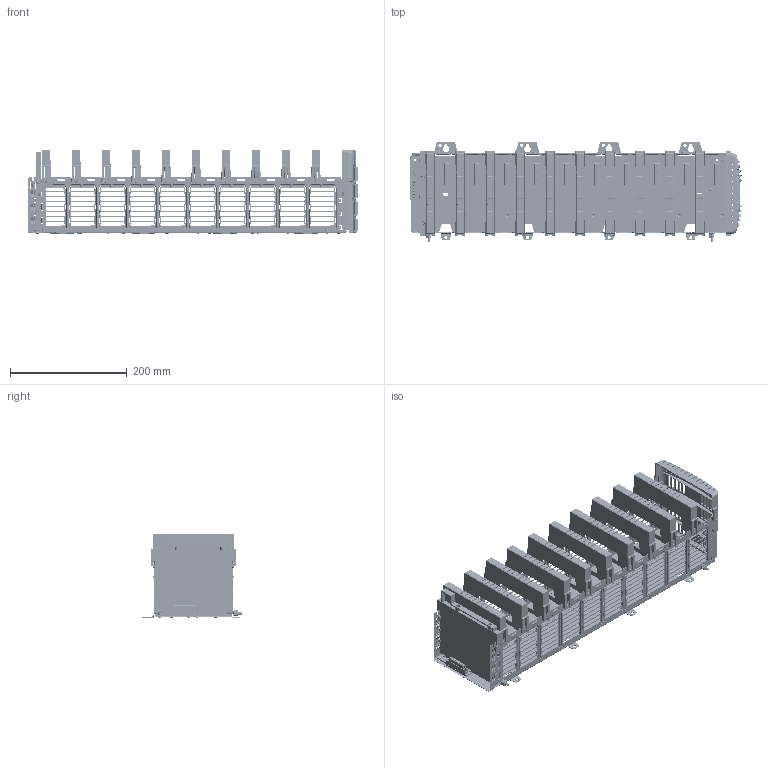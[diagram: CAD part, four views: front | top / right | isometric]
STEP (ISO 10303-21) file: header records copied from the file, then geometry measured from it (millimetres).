
FILE_DESCRIPTION((''),'2;1');
FILE_NAME('10004254439_ASM','2018-08-30T14:17:58',('wbf'),('Rockwell Automation'),'CREO PARAMETRIC BY PTC INC, 2017380','CREO PARAMETRIC BY PTC INC, 2017380','');
FILE_SCHEMA(('CONFIG_CONTROL_DESIGN'));
Products named in the file (25): 10002382290; 10000894365; 94187706; 10002384674_ASM; 10002387370; 10002383752; JPR_THRU_SHORT; M_N_C300_177_4; TP_C100; CN_94244718; CN_94197213; SW_94371202; M_N_SLOT177X136_4; MECH_NPTH_C350_177; RS_0805_PRI; PBFREE_200_PRI; 10004254438_ASM; 94282003-PRT; 10000019832; 97733101; 94225605; 10001014668; 10002618698; 94210914; 10004254439_ASM
Assembly tree (83 placements, depth 3):
  10004254439_ASM
    10002384674_ASM
      10002382290
      10000894365  x2
      94187706  x4
    10002387370
    10004254438_ASM
      10002383752
      JPR_THRU_SHORT  x3
      M_N_C300_177_4  x7
      TP_C100
      CN_94244718  x10
      CN_94197213
      SW_94371202
      M_N_SLOT177X136_4
      MECH_NPTH_C350_177
      RS_0805_PRI
      PBFREE_200_PRI
    94282003-PRT  x10
    10000019832
    97733101
    94225605  x2
    10001014668  x10
    10002618698  x20
    94210914
Bounding box: 569.38 x 171.88 x 145.52 mm (x, y, z)
Volume: 650782.6 mm3; surface area: 901753.8 mm2
Topology: 85 solids, 85 shells, 27334 faces, 69547 edges, 44749 vertices
Faces by surface type: plane 13860, cylinder 7232, bspline 4090, torus 1390, cone 432, sphere 330
Entity records: 543201 total; most frequent: CARTESIAN_POINT 215545, ORIENTED_EDGE 70920, DIRECTION 64391, EDGE_CURVE 35460, VERTEX_POINT 22161, AXIS2_PLACEMENT_3D 21978, VECTOR 20435, LINE 20435
